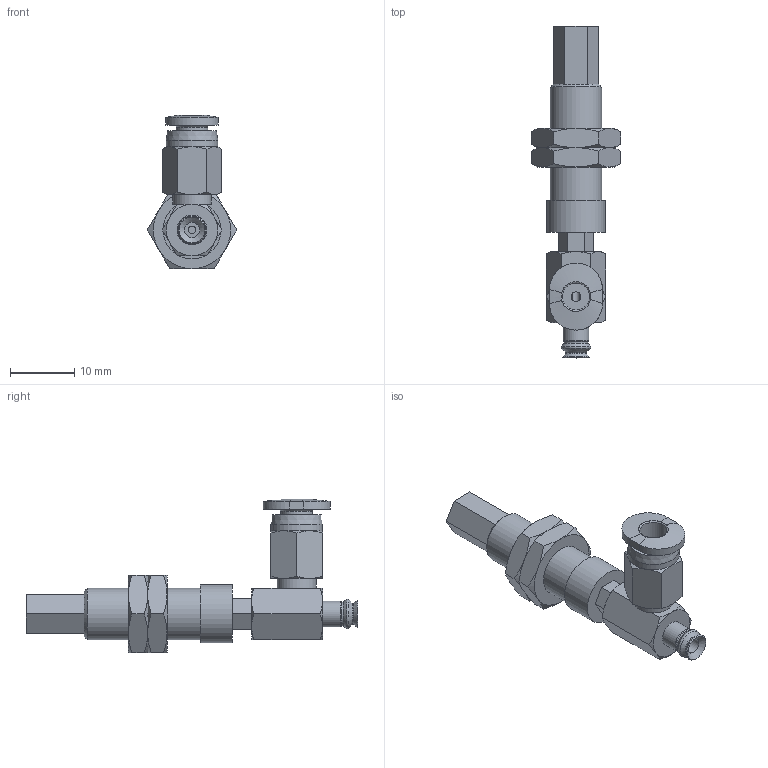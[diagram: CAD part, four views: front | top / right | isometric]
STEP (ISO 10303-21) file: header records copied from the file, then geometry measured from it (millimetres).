
FILE_DESCRIPTION(('STEP AP203'),'1');
FILE_NAME('-O.stp','2025-04-24T05:07:09',(' '),(' '),'Spatial InterOp 3D',' ',' ');
FILE_SCHEMA(('CONFIG_CONTROL_DESIGN'));
Length unit declared in the file: millimetre
Products named in the file (7): BNABPJYH-4-3-※-O; CONNECTOR-H-2A-3; Nut-2A-3-h; NAPFTH-2A-3-FBODY; NAPFTH-2A-3-MBODY; BPJG-4-※; PC-C_04-M3
Assembly tree (7 placements, depth 2):
  BNABPJYH-4-3-※-O
    CONNECTOR-H-2A-3
    Nut-2A-3-h  x2
    NAPFTH-2A-3-FBODY
    NAPFTH-2A-3-MBODY
    BPJG-4-※
    PC-C_04-M3
Bounding box: 13.86 x 51.5 x 23.77 mm (x, y, z)
Volume: 2642.9 mm3; surface area: 3958.9 mm2
Topology: 6 solids, 8 shells, 191 faces, 410 edges, 249 vertices
Faces by surface type: plane 80, cone 70, cylinder 23, torus 11, bspline 4, revolution 3
Full cylindrical faces by diameter (mm): 1.2 x1, 2 x2, 2.4 x1, 2.459 x2, 2.5 x2, 3 x4, 4 x1, 4.9 x1, 6 x1, 6.1 x1, 7.188 x2, 8 x2, 9 x1
Entity records: 4942 total; most frequent: CARTESIAN_POINT 1324, DIRECTION 671, ORIENTED_EDGE 596, EDGE_CURVE 299, AXIS2_PLACEMENT_3D 282, EDGE_LOOP 244, VERTEX_POINT 209, FACE_OUTER_BOUND 139
